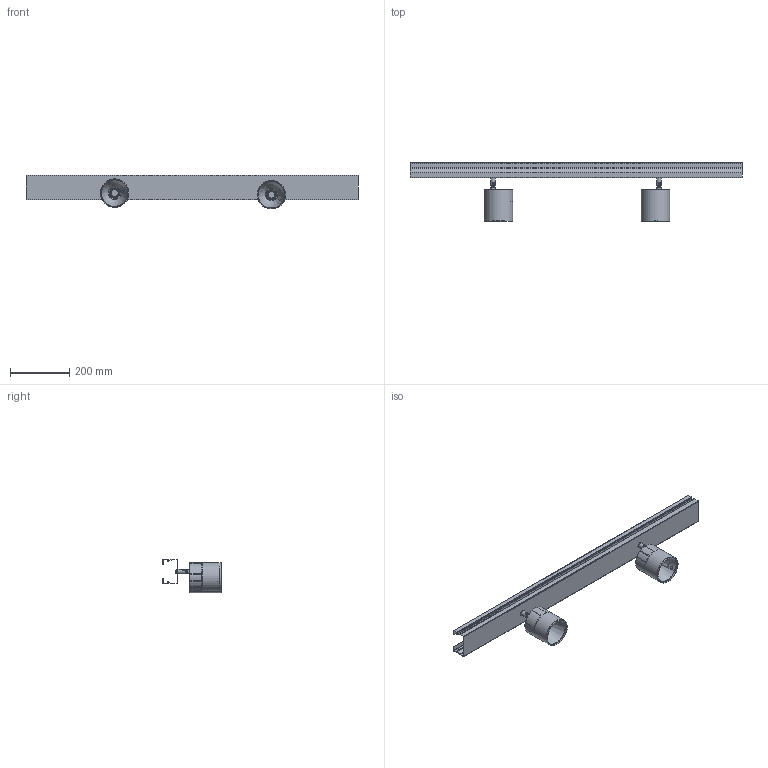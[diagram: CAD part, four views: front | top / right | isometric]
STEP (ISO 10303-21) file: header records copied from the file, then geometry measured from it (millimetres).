
FILE_DESCRIPTION(/* description */ (''),/* implementation_level */ '2;1');
FILE_NAME(/* name */ 'GDO_SYSTEM_SPOT_GDMI2.stp',/* time_stamp */ '2025-10-01T12:08:25+02:00',/* author */ ('gian.noche'),/* organization */ (''),/* preprocessor_version */ 'ST-DEVELOPER v19.2',/* originating_system */ 'Autodesk Inventor 2023',/* authorisation */ '');
FILE_SCHEMA (('AUTOMOTIVE_DESIGN { 1 0 10303 214 3 1 1 }'));
Length unit declared in the file: millimetre
Products named in the file (1): IDP_271_GDO_SYSTEM_SPOT_02_Semplifica_1
Bounding box: 1120 x 195.81 x 114.17 mm (x, y, z)
Volume: 522956.2 mm3; surface area: 852071.8 mm2
Topology: 5 solids, 5 shells, 4576 faces, 11140 edges, 6500 vertices
Faces by surface type: cylinder 1680, plane 824, torus 758, bspline 746, sphere 354, cone 214
Full cylindrical faces by diameter (mm): 1.5 x2, 2.6 x2, 3.2 x4, 3.8 x4, 5.8 x4, 10 x4, 12.8 x2, 14 x2, 16.2 x2, 48 x2, 92 x2, 92.6 x2, 96.2 x2
Entity records: 237195 total; most frequent: CARTESIAN_POINT 134199, ORIENTED_EDGE 22008, DIRECTION 21670, EDGE_CURVE 11004, AXIS2_PLACEMENT_3D 9037, VERTEX_POINT 6500, CIRCLE 4850, EDGE_LOOP 4662
